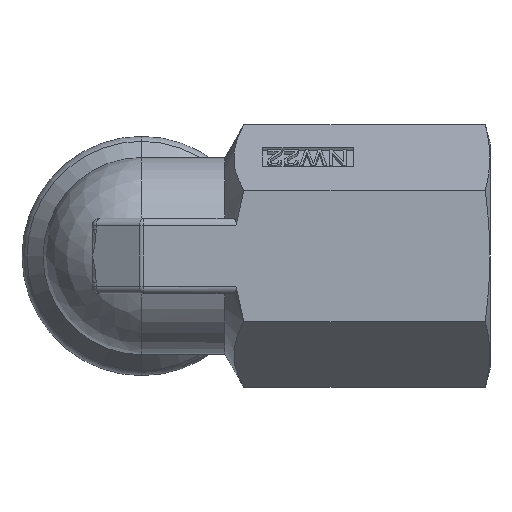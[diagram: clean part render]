
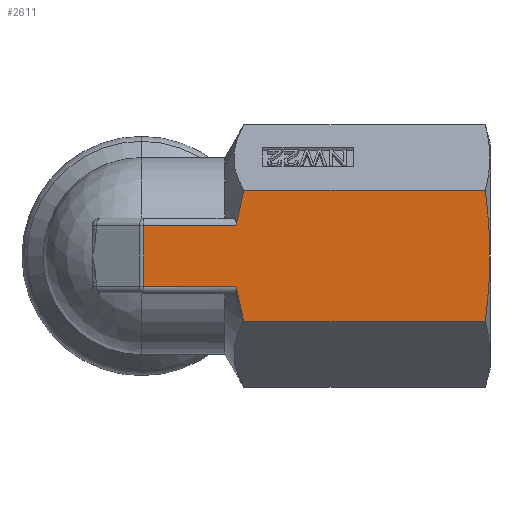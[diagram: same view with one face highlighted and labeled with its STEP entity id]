
A CAD part, left-side view. The second image highlights one B-rep face of the part: STEP entity #2611.
In plain terms, the highlighted planar face has unit normal (-1, 0, 0).
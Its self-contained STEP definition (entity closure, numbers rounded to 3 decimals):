
#114 = EDGE_CURVE ( 'NONE', #1481, #4115, #2948, .T. ) ;
#144 = ORIENTED_EDGE ( 'NONE', *, *, #2209, .F. ) ;
#153 = VECTOR ( 'NONE', #2411, 1000. ) ;
#156 = CARTESIAN_POINT ( 'NONE',  ( -15., -13.274, -7.897 ) ) ;
#184 = CARTESIAN_POINT ( 'NONE',  ( -15., -0.249, -5. ) ) ;
#407 = DIRECTION ( 'NONE',  ( 0., 0., -1. ) ) ;
#516 = B_SPLINE_CURVE_WITH_KNOTS ( 'NONE', 3,
 ( #4791, #156, #5341, #4445, #3071, #3504 ),
 .UNSPECIFIED., .F., .F.,
 ( 4, 2, 4 ),
 ( 0.016, 0.018, 0.02 ),
 .UNSPECIFIED. ) ;
#619 = CARTESIAN_POINT ( 'NONE',  ( -15., -0.249, 4. ) ) ;
#748 = CARTESIAN_POINT ( 'NONE',  ( -15., -46., -1.441 ) ) ;
#804 = EDGE_CURVE ( 'NONE', #4115, #1872, #2780, .T. ) ;
#817 = CARTESIAN_POINT ( 'NONE',  ( -15., -46., 1.446 ) ) ;
#871 = VERTEX_POINT ( 'NONE', #1998 ) ;
#885 = DIRECTION ( 'NONE',  ( 1., 0., 0. ) ) ;
#913 = CARTESIAN_POINT ( 'NONE',  ( -15., -46., 0. ) ) ;
#1208 = CARTESIAN_POINT ( 'NONE',  ( -15., -45.571, -7.221 ) ) ;
#1301 = ORIENTED_EDGE ( 'NONE', *, *, #4847, .T. ) ;
#1355 = ORIENTED_EDGE ( 'NONE', *, *, #804, .F. ) ;
#1372 = LINE ( 'NONE', #1637, #5030 ) ;
#1441 = CARTESIAN_POINT ( 'NONE',  ( -15., -13.494, 8.66 ) ) ;
#1481 = VERTEX_POINT ( 'NONE', #3091 ) ;
#1637 = CARTESIAN_POINT ( 'NONE',  ( -15., -46., 8.66 ) ) ;
#1640 = CARTESIAN_POINT ( 'NONE',  ( -15., -45.378, 8.66 ) ) ;
#1668 = CARTESIAN_POINT ( 'NONE',  ( -15., -45.943, 2.891 ) ) ;
#1696 = CARTESIAN_POINT ( 'NONE',  ( -15., -12.457, -4. ) ) ;
#1856 = EDGE_LOOP ( 'NONE', ( #144, #1301, #2894, #2716, #4247, #1355, #5322, #2704, #4287 ) ) ;
#1857 = VECTOR ( 'NONE', #5281, 1000. ) ;
#1872 = VERTEX_POINT ( 'NONE', #4583 ) ;
#1902 = CARTESIAN_POINT ( 'NONE',  ( -15., -13.053, 7.132 ) ) ;
#1921 = CARTESIAN_POINT ( 'NONE',  ( -15., -12.693, 5.583 ) ) ;
#1926 = CARTESIAN_POINT ( 'NONE',  ( -15., -46., -8.66 ) ) ;
#1998 = CARTESIAN_POINT ( 'NONE',  ( -15., -12.457, 4. ) ) ;
#2118 = CARTESIAN_POINT ( 'NONE',  ( -15., -45.943, -2.884 ) ) ;
#2209 = EDGE_CURVE ( 'NONE', #871, #3575, #3083, .T. ) ;
#2270 = PLANE ( 'NONE',  #5109 ) ;
#2396 = FACE_OUTER_BOUND ( 'NONE', #1856, .T. ) ;
#2411 = DIRECTION ( 'NONE',  ( 0., 1., 0. ) ) ;
#2412 = EDGE_CURVE ( 'NONE', #4168, #1481, #4286, .T. ) ;
#2526 = LINE ( 'NONE', #2905, #3595 ) ;
#2572 = CARTESIAN_POINT ( 'NONE',  ( -15., -45.378, 8.66 ) ) ;
#2611 = ADVANCED_FACE ( 'NONE', ( #2396 ), #2270, .F. ) ;
#2629 = CARTESIAN_POINT ( 'NONE',  ( -15., 0.019, 4. ) ) ;
#2704 = ORIENTED_EDGE ( 'NONE', *, *, #2412, .F. ) ;
#2716 = ORIENTED_EDGE ( 'NONE', *, *, #2944, .T. ) ;
#2780 = LINE ( 'NONE', #1926, #153 ) ;
#2894 = ORIENTED_EDGE ( 'NONE', *, *, #5506, .T. ) ;
#2905 = CARTESIAN_POINT ( 'NONE',  ( -15., -46., -4. ) ) ;
#2944 = EDGE_CURVE ( 'NONE', #3229, #5842, #2526, .T. ) ;
#2948 = B_SPLINE_CURVE_WITH_KNOTS ( 'NONE', 3,
 ( #3044, #748, #2118, #5375, #1208, #3557 ),
 .UNSPECIFIED., .F., .F.,
 ( 4, 2, 4 ),
 ( 0.045, 0.049, 0.054 ),
 .UNSPECIFIED. ) ;
#3044 = CARTESIAN_POINT ( 'NONE',  ( -15., -46., 0. ) ) ;
#3051 = CARTESIAN_POINT ( 'NONE',  ( -15., -45.728, 5.777 ) ) ;
#3071 = CARTESIAN_POINT ( 'NONE',  ( -15., -12.574, -4.784 ) ) ;
#3083 = B_SPLINE_CURVE_WITH_KNOTS ( 'NONE', 3,
 ( #4190, #1921, #1902, #5568 ),
 .UNSPECIFIED., .F., .F.,
 ( 4, 4 ),
 ( 0.028, 0.033 ),
 .UNSPECIFIED. ) ;
#3091 = CARTESIAN_POINT ( 'NONE',  ( -15., -46., 0. ) ) ;
#3120 = LINE ( 'NONE', #2629, #3350 ) ;
#3229 = VERTEX_POINT ( 'NONE', #4637 ) ;
#3329 = EDGE_CURVE ( 'NONE', #4168, #3575, #1372, .T. ) ;
#3350 = VECTOR ( 'NONE', #3926, 1000. ) ;
#3504 = CARTESIAN_POINT ( 'NONE',  ( -15., -12.457, -4. ) ) ;
#3557 = CARTESIAN_POINT ( 'NONE',  ( -15., -45.378, -8.66 ) ) ;
#3575 = VERTEX_POINT ( 'NONE', #1441 ) ;
#3595 = VECTOR ( 'NONE', #4728, 1000. ) ;
#3926 = DIRECTION ( 'NONE',  ( 0., 1., 0. ) ) ;
#3949 = CARTESIAN_POINT ( 'NONE',  ( -15., -45.571, 7.219 ) ) ;
#4064 = LINE ( 'NONE', #184, #1857 ) ;
#4115 = VERTEX_POINT ( 'NONE', #4876 ) ;
#4168 = VERTEX_POINT ( 'NONE', #1640 ) ;
#4190 = CARTESIAN_POINT ( 'NONE',  ( -15., -12.457, 4. ) ) ;
#4247 = ORIENTED_EDGE ( 'NONE', *, *, #5057, .F. ) ;
#4286 = B_SPLINE_CURVE_WITH_KNOTS ( 'NONE', 3,
 ( #2572, #3949, #3051, #1668, #817, #913 ),
 .UNSPECIFIED., .F., .F.,
 ( 4, 2, 4 ),
 ( 0.036, 0.041, 0.045 ),
 .UNSPECIFIED. ) ;
#4287 = ORIENTED_EDGE ( 'NONE', *, *, #3329, .T. ) ;
#4445 = CARTESIAN_POINT ( 'NONE',  ( -15., -12.722, -5.565 ) ) ;
#4583 = CARTESIAN_POINT ( 'NONE',  ( -15., -13.494, -8.66 ) ) ;
#4611 = VERTEX_POINT ( 'NONE', #619 ) ;
#4637 = CARTESIAN_POINT ( 'NONE',  ( -15., -0.249, -4. ) ) ;
#4728 = DIRECTION ( 'NONE',  ( 0., -1., 0. ) ) ;
#4791 = CARTESIAN_POINT ( 'NONE',  ( -15., -13.494, -8.66 ) ) ;
#4847 = EDGE_CURVE ( 'NONE', #871, #4611, #3120, .T. ) ;
#4876 = CARTESIAN_POINT ( 'NONE',  ( -15., -45.378, -8.66 ) ) ;
#5030 = VECTOR ( 'NONE', #5293, 1000. ) ;
#5057 = EDGE_CURVE ( 'NONE', #1872, #5842, #516, .T. ) ;
#5109 = AXIS2_PLACEMENT_3D ( 'NONE', #5910, #885, #407 ) ;
#5281 = DIRECTION ( 'NONE',  ( 0., 0., -1. ) ) ;
#5293 = DIRECTION ( 'NONE',  ( 0., 1., 0. ) ) ;
#5322 = ORIENTED_EDGE ( 'NONE', *, *, #114, .F. ) ;
#5341 = CARTESIAN_POINT ( 'NONE',  ( -15., -13.073, -7.124 ) ) ;
#5375 = CARTESIAN_POINT ( 'NONE',  ( -15., -45.729, -5.773 ) ) ;
#5506 = EDGE_CURVE ( 'NONE', #4611, #3229, #4064, .T. ) ;
#5568 = CARTESIAN_POINT ( 'NONE',  ( -15., -13.494, 8.66 ) ) ;
#5842 = VERTEX_POINT ( 'NONE', #1696 ) ;
#5910 = CARTESIAN_POINT ( 'NONE',  ( -15., -46., 8.66 ) ) ;
